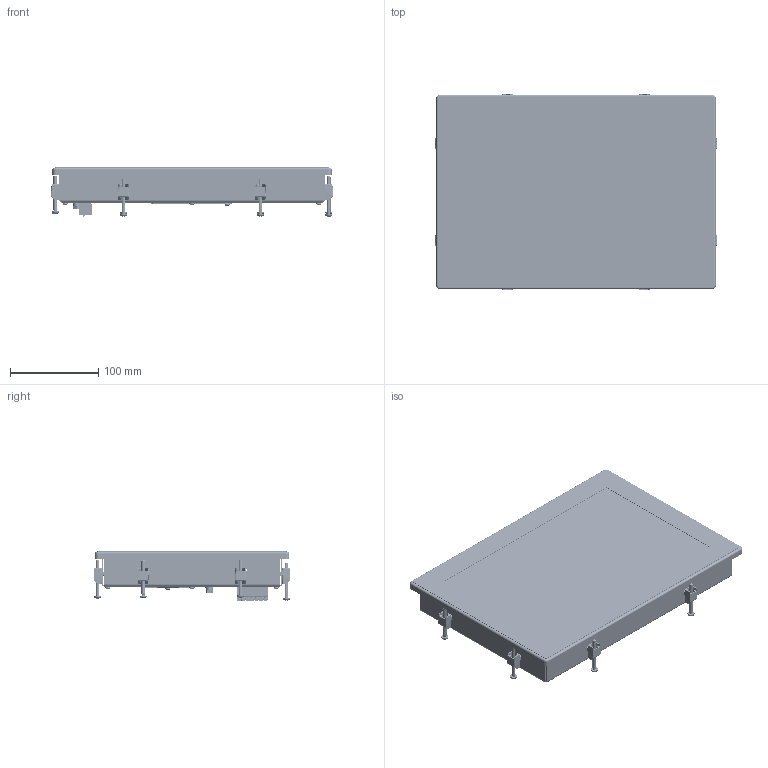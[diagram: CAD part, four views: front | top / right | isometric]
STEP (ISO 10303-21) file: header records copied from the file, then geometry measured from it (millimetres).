
FILE_DESCRIPTION(/* description */ ('STEP AP203'),/* implementation_level */ '2;1');
FILE_NAME(/* name */ 'PC-TC-WP820_20260617.stp',/* time_stamp */ '2026-06-17T09:21:57+02:00',/* author */ ('ut3'),/* organization */ ('Microsoft'),/* preprocessor_version */ 'ST-DEVELOPER v20.1',/* originating_system */ 'Autodesk Inventor 2026',/* authorisation */ '');
FILE_SCHEMA (('AUTOMOTIVE_DESIGN { 1 0 10303 214 3 1 1 }'));
Products named in the file (190): WP820_V1; AssiemeRMB_PCB_V1; 0400.60.041_1753534_04_MSTBV-2-5-7-G_3D; DB9-M; DB9-F; SSD_2242_B_M; RMB-PCB_V1; 1300.20.540_v3; 1300.20.540_V3_1; DiscoMasc-10; M4_FTTC_C-128; M3_FTR-67; ÆÁ×é; ÆÁ; Touch; 1300_20_369_V2; M4_FTTC_C; 1600_00_165; 1600_00_166; 1600_00_167; M3_FTR_L; 1300_20_304_REV2; 1300.20.539_V1_Guarnizione; 1300.20.539_V2; 1300.20.541_V3; 1300.20.541_V3_1; DP06_1030_M3; 1600.00.026; ISO 7045 - M3 x 10 - 4.8 - Z; 1600.00.108; ISO 7045 - M4 x 40 - 4.8 - Z; 0400.60.078_1910403_04_FKC-2-5-7-ST_3D; fkc_2.5-7-st; 615008138321 (rev1); 615008138321_Housing; 615008138321_Housing1; 615008138321_LED_Jaune; 615008138321_LED_jaune_1; 615008138321_LED_vert; 615008138321_LED2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
Assembly tree (304 placements, depth 5):
  WP820_V1
    AssiemeRMB_PCB_V1
      0400.60.041_1753534_04_MSTBV-2-5-7-G_3D
      615008138321 (rev1)  x2
        615008138321_Housing
        615008138321_Housing1
        615008138321_LED_Jaune
          615008138321_LED2
          615008138321_LED1
          615008138321_LED_jaune_1
        615008138321_LED_vert
          615008138321_LED2
          615008138321_LED1
          615008138321_LED_vert_1
        615008138321_Pin1
        615008138321_Pin3
        615008138321_Pin5
        615008138321_Pin7
        615008138321_Pin2
        615008138321_Pin4
        615008138321_Pin6
        615008138321_Pin8
        615008138321_Shielding
      DB9-M
      DB9-F
      SSD_2242_B_M
      RMB-PCB_V1
      0410.00.002_614004135023 (rev1)  x2
        Insulator
        Pin
        Shielding
        Insulator2
      0400.60.078_1910403_04_FKC-2-5-7-ST_3D
        fkc_2.5-7-st
    1300.20.540_v3
      1300.20.540_V3_1
      DiscoMasc-10  x3
      M4_FTTC_C-128
      M3_FTR-67
    ÆÁ×é
      Íâ¿Ç
      ÆÁ
      Touch
    1300_20_369_V2
    1600_00_059  x26
    M4_FTTC_C
    1600_00_165
    1600_00_166
    1600_00_167
    M3_FTR_L
    1300_20_304_REV2  x8
    1300.20.539_V1_Guarnizione
    ISO 7045 - M4 x 40 - 4.8 - Z  x8
    1600.00.108  x9
    ISO 7045 - M3 x 10 - 4.8 - Z  x2
    1300.20.539_V2
    1300.20.541_V3
      1300.20.541_V3_1
      DP06_1030_M3  x9
    1600.00.026
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Bounding box: 318.7 x 222.5 x 56.18 mm (x, y, z)
Volume: 1576266.9 mm3; surface area: 1194634.9 mm2
Topology: 1041 solids, 1111 shells, 24581 faces, 62420 edges, 40628 vertices
Faces by surface type: plane 15902, cylinder 6768, bspline 994, cone 384, sphere 332, torus 201
Full cylindrical faces by diameter (mm): 0 x1, 0.156 x1, 0.163 x2, 0.2 x61, 0.254 x567, 0.305 x1, 0.345 x1, 0.406 x277, 0.457 x2, 0.5 x3, 0.508 x16, 0.6 x16, 0.61 x15, 0.65 x2, 0.66 x36, 0.75 x2, 0.762 x58, 0.8 x12, 0.85 x2, 0.875 x1, 0.889 x68, 1.016 x67, 1.1 x1, 1.118 x83, 1.2 x4, 1.3 x7, 1.321 x3, 1.4 x14, 1.416 x2, 1.567 x8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
Entity records: 490154 total; most frequent: CARTESIAN_POINT 102627, DIRECTION 76610, ORIENTED_EDGE 74930, EDGE_CURVE 37538, LINE 27930, VECTOR 27930, VERTEX_POINT 24632, AXIS2_PLACEMENT_3D 24340
